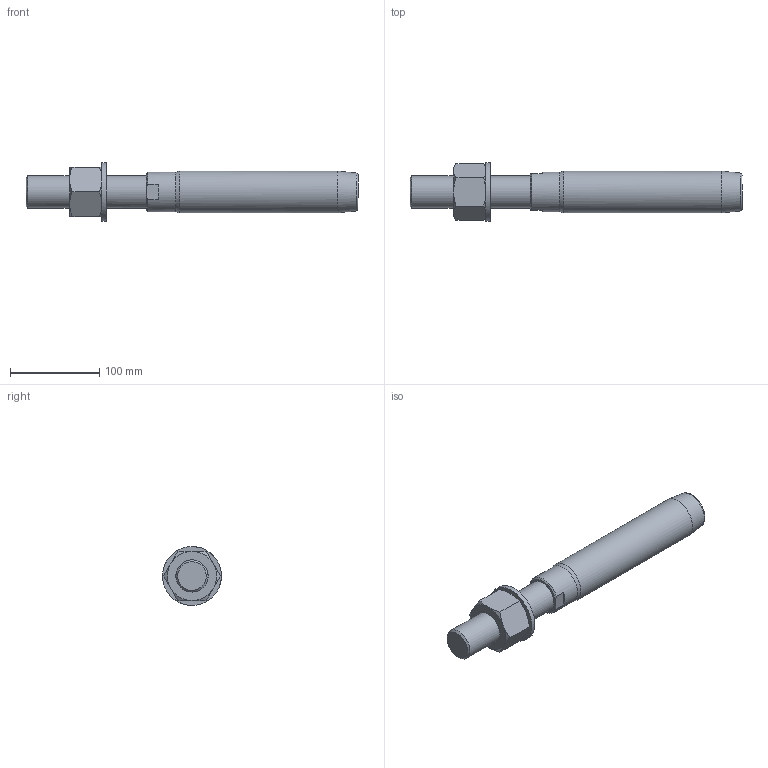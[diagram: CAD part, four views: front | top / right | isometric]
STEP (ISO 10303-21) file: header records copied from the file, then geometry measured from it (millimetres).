
FILE_DESCRIPTION(/* description */ (''),/* implementation_level */ '2;1');
FILE_NAME(/* name */ 'FLT 22_1,4462',/* time_stamp */ '2023-05-23T15:58:05+02:00',/* author */ (''),/* organization */ (''),/* preprocessor_version */ 'ST-DEVELOPER v16.5',/* originating_system */ 'Rhino 7.22',/* authorisation */ '');
FILE_SCHEMA (('CONFIG_CONTROL_DESIGN'));
Length unit declared in the file: millimetre
Products named in the file (1): Document
Bounding box: 372 x 65.99 x 65.98 mm (x, y, z)
Volume: 609441.7 mm3; surface area: 72381.5 mm2
Topology: 3 solids, 3 shells, 43 faces, 104 edges, 68 vertices
Faces by surface type: bspline 20, plane 17, cylinder 6
Full cylindrical faces by diameter (mm): 32.752 x1, 36 x1, 37 x1, 44.5 x1, 46.8 x1, 66 x1
Entity records: 1590 total; most frequent: CARTESIAN_POINT 881, ORIENTED_EDGE 208, EDGE_CURVE 104, VERTEX_POINT 68, EDGE_LOOP 48, ADVANCED_FACE 43, FACE_OUTER_BOUND 43, DIRECTION 27
